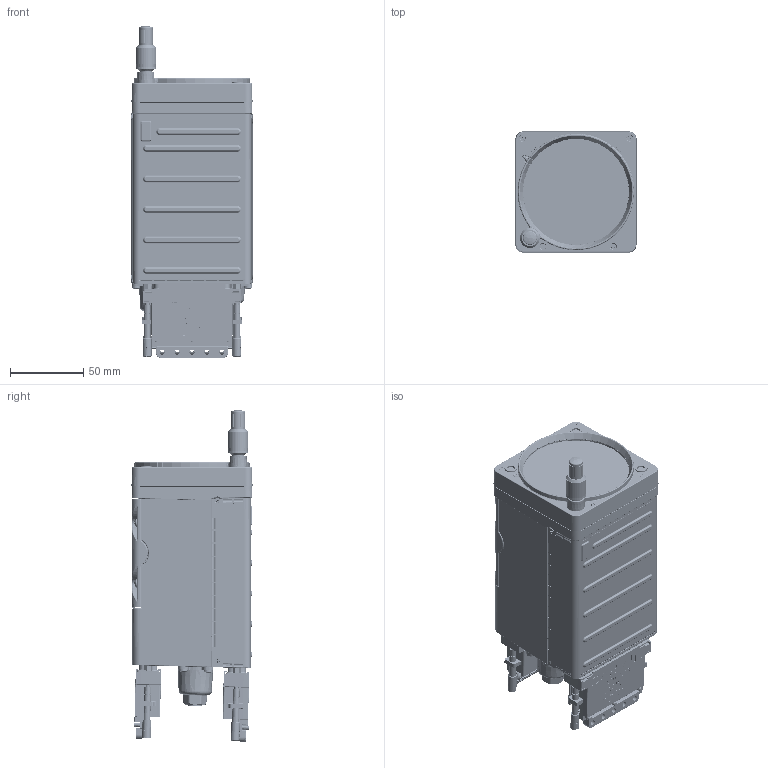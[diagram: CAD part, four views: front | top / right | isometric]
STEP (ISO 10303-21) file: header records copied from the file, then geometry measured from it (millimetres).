
FILE_DESCRIPTION (( 'STEP AP203' ), '1' );
FILE_NAME ('GI275_011-04489-20_C[011-01855-04]_Rev2.STEP', '2019-06-13T14:56:10', ( '' ), ( '' ), 'SwSTEP 2.0', 'SolidWorks 2016', '' );
FILE_SCHEMA (( 'CONFIG_CONTROL_DESIGN' ));
Products named in the file (1): GI275_011-04489-20_C[011-01855-04]_Rev2
Bounding box: 83.48 x 82.55 x 226.35 mm (x, y, z)
Volume: 998904.2 mm3; surface area: 111154.3 mm2
Topology: 3 solids, 20 shells, 6074 faces, 15063 edges, 9669 vertices
Faces by surface type: plane 2795, cylinder 1691, bspline 1120, cone 228, torus 172, sphere 68
Entity records: 244606 total; most frequent: CARTESIAN_POINT 108827, ORIENTED_EDGE 30026, DIRECTION 24890, EDGE_CURVE 15013, VERTEX_POINT 9667, AXIS2_PLACEMENT_3D 8806, VECTOR 7278, LINE 7278
